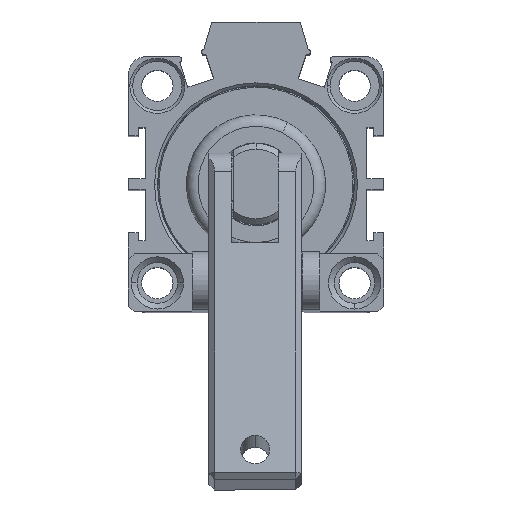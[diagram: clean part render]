
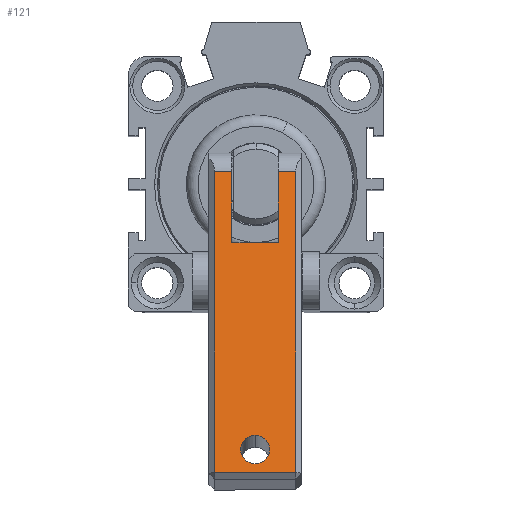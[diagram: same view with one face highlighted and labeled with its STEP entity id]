
A CAD part, top view. The second image highlights one B-rep face of the part: STEP entity #121.
In plain terms, the highlighted planar face has unit normal (0, 0.206, 0.979) as drawn and (0, 1, 0) by its records, which use the part's own axes.
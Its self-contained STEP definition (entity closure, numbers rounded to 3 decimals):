
#121 = ADVANCED_FACE ( 'NONE', ( #4302, #8941 ), #8005, .T. ) ;
#162 = AXIS2_PLACEMENT_3D ( 'NONE', #12658, #1421, #2866 ) ;
#411 = ORIENTED_EDGE ( 'NONE', *, *, #5448, .T. ) ;
#679 = CARTESIAN_POINT ( 'NONE',  ( 1., 16., 1. ) ) ;
#928 = VECTOR ( 'NONE', #1517, 1000. ) ;
#941 = LINE ( 'NONE', #5645, #6900 ) ;
#1152 = DIRECTION ( 'NONE',  ( 1., 0., 0. ) ) ;
#1219 = DIRECTION ( 'NONE',  ( 0., 0., -1. ) ) ;
#1265 = VERTEX_POINT ( 'NONE', #11513 ) ;
#1421 = DIRECTION ( 'NONE',  ( 0., -1., 0. ) ) ;
#1438 = ORIENTED_EDGE ( 'NONE', *, *, #9616, .T. ) ;
#1517 = DIRECTION ( 'NONE',  ( 1., 0., 0. ) ) ;
#1618 = EDGE_CURVE ( 'NONE', #6396, #10132, #10736, .T. ) ;
#1781 = DIRECTION ( 'NONE',  ( 0., 0., -1. ) ) ;
#1808 = VECTOR ( 'NONE', #7243, 1000. ) ;
#1980 = VERTEX_POINT ( 'NONE', #11141 ) ;
#2158 = CARTESIAN_POINT ( 'NONE',  ( 0., 16., 16. ) ) ;
#2327 = CIRCLE ( 'NONE', #6388, 2.5 ) ;
#2619 = ORIENTED_EDGE ( 'NONE', *, *, #8548, .T. ) ;
#2866 = DIRECTION ( 'NONE',  ( 1., 0., 0. ) ) ;
#2935 = ORIENTED_EDGE ( 'NONE', *, *, #9090, .T. ) ;
#2966 = VECTOR ( 'NONE', #8873, 1000. ) ;
#3115 = CARTESIAN_POINT ( 'NONE',  ( 41.5, 16., 12. ) ) ;
#3422 = CIRCLE ( 'NONE', #162, 2.5 ) ;
#3797 = EDGE_CURVE ( 'NONE', #10132, #8823, #8831, .T. ) ;
#4025 = AXIS2_PLACEMENT_3D ( 'NONE', #2158, #11168, #9124 ) ;
#4054 = EDGE_CURVE ( 'NONE', #7135, #1980, #3422, .T. ) ;
#4063 = DIRECTION ( 'NONE',  ( 0., -1., 0. ) ) ;
#4197 = VERTEX_POINT ( 'NONE', #3115 ) ;
#4302 = FACE_BOUND ( 'NONE', #7225, .T. ) ;
#4468 = CARTESIAN_POINT ( 'NONE',  ( 0., 16., 15. ) ) ;
#4929 = EDGE_CURVE ( 'NONE', #1980, #7135, #2327, .T. ) ;
#5038 = CARTESIAN_POINT ( 'NONE',  ( 54., 16., 16. ) ) ;
#5102 = ORIENTED_EDGE ( 'NONE', *, *, #4054, .T. ) ;
#5174 = ORIENTED_EDGE ( 'NONE', *, *, #10228, .T. ) ;
#5448 = EDGE_CURVE ( 'NONE', #8823, #1265, #5589, .T. ) ;
#5473 = DIRECTION ( 'NONE',  ( 1., 0., 0. ) ) ;
#5589 = LINE ( 'NONE', #5038, #2966 ) ;
#5645 = CARTESIAN_POINT ( 'NONE',  ( 54., 16., 16. ) ) ;
#5747 = VERTEX_POINT ( 'NONE', #10218 ) ;
#5911 = CARTESIAN_POINT ( 'NONE',  ( 7.5, 16., 8. ) ) ;
#6078 = VERTEX_POINT ( 'NONE', #12164 ) ;
#6388 = AXIS2_PLACEMENT_3D ( 'NONE', #7007, #4063, #1152 ) ;
#6396 = VERTEX_POINT ( 'NONE', #679 ) ;
#6900 = VECTOR ( 'NONE', #1781, 1000. ) ;
#7007 = CARTESIAN_POINT ( 'NONE',  ( 5., 16., 8. ) ) ;
#7135 = VERTEX_POINT ( 'NONE', #5911 ) ;
#7225 = EDGE_LOOP ( 'NONE', ( #5102, #11312 ) ) ;
#7243 = DIRECTION ( 'NONE',  ( -1., 0., 0. ) ) ;
#7325 = LINE ( 'NONE', #12128, #1808 ) ;
#7444 = VECTOR ( 'NONE', #5473, 1000. ) ;
#7596 = CARTESIAN_POINT ( 'NONE',  ( 1., 16., 16. ) ) ;
#7631 = VECTOR ( 'NONE', #10713, 1000. ) ;
#8005 = PLANE ( 'NONE',  #4025 ) ;
#8119 = VECTOR ( 'NONE', #12485, 1000. ) ;
#8180 = VECTOR ( 'NONE', #1219, 1000. ) ;
#8185 = EDGE_LOOP ( 'NONE', ( #2935, #2619, #5174, #10059, #11712, #411, #1438, #9309 ) ) ;
#8406 = CARTESIAN_POINT ( 'NONE',  ( 41.5, 16., 4. ) ) ;
#8548 = EDGE_CURVE ( 'NONE', #12435, #5747, #941, .T. ) ;
#8735 = CARTESIAN_POINT ( 'NONE',  ( 0., 16., 1. ) ) ;
#8823 = VERTEX_POINT ( 'NONE', #11932 ) ;
#8831 = LINE ( 'NONE', #4468, #7444 ) ;
#8873 = DIRECTION ( 'NONE',  ( 0., 0., -1. ) ) ;
#8941 = FACE_OUTER_BOUND ( 'NONE', #8185, .T. ) ;
#8950 = LINE ( 'NONE', #9953, #8180 ) ;
#9090 = EDGE_CURVE ( 'NONE', #6078, #12435, #12096, .T. ) ;
#9124 = DIRECTION ( 'NONE',  ( 0., 0., 1. ) ) ;
#9309 = ORIENTED_EDGE ( 'NONE', *, *, #12458, .T. ) ;
#9452 = LINE ( 'NONE', #8735, #7631 ) ;
#9551 = CARTESIAN_POINT ( 'NONE',  ( 1., 16., 15. ) ) ;
#9616 = EDGE_CURVE ( 'NONE', #1265, #4197, #7325, .T. ) ;
#9953 = CARTESIAN_POINT ( 'NONE',  ( 41.5, 16., 12. ) ) ;
#10059 = ORIENTED_EDGE ( 'NONE', *, *, #1618, .T. ) ;
#10132 = VERTEX_POINT ( 'NONE', #9551 ) ;
#10218 = CARTESIAN_POINT ( 'NONE',  ( 54., 16., 1. ) ) ;
#10228 = EDGE_CURVE ( 'NONE', #5747, #6396, #9452, .T. ) ;
#10713 = DIRECTION ( 'NONE',  ( -1., 0., 0. ) ) ;
#10736 = LINE ( 'NONE', #7596, #8119 ) ;
#11141 = CARTESIAN_POINT ( 'NONE',  ( 2.5, 16., 8. ) ) ;
#11168 = DIRECTION ( 'NONE',  ( 0., 1., 0. ) ) ;
#11312 = ORIENTED_EDGE ( 'NONE', *, *, #4929, .T. ) ;
#11513 = CARTESIAN_POINT ( 'NONE',  ( 54., 16., 12. ) ) ;
#11712 = ORIENTED_EDGE ( 'NONE', *, *, #3797, .T. ) ;
#11932 = CARTESIAN_POINT ( 'NONE',  ( 54., 16., 15. ) ) ;
#11999 = CARTESIAN_POINT ( 'NONE',  ( 54., 16., 4. ) ) ;
#12096 = LINE ( 'NONE', #8406, #928 ) ;
#12128 = CARTESIAN_POINT ( 'NONE',  ( 62.89, 16., 12. ) ) ;
#12164 = CARTESIAN_POINT ( 'NONE',  ( 41.5, 16., 4. ) ) ;
#12435 = VERTEX_POINT ( 'NONE', #11999 ) ;
#12458 = EDGE_CURVE ( 'NONE', #4197, #6078, #8950, .T. ) ;
#12485 = DIRECTION ( 'NONE',  ( 0., 0., 1. ) ) ;
#12658 = CARTESIAN_POINT ( 'NONE',  ( 5., 16., 8. ) ) ;
